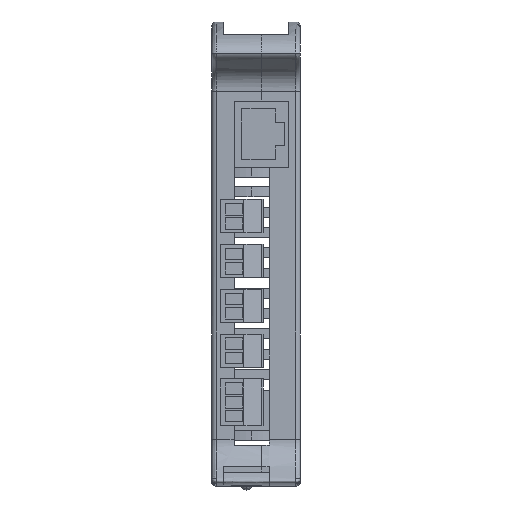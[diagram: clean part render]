
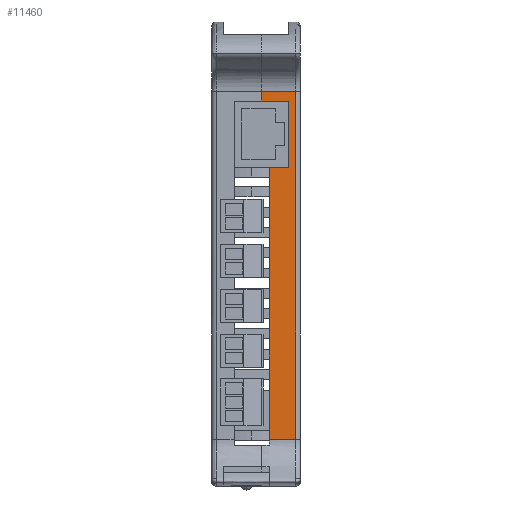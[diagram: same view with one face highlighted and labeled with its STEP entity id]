
A CAD part, left-side view. The second image highlights one B-rep face of the part: STEP entity #11460.
In plain terms, the highlighted planar face has unit normal (-1, 0, 0) as drawn and (0, 0, -1) by its records, which use the part's own axes.
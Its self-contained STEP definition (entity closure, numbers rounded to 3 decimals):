
#1210 = CARTESIAN_POINT ( 'NONE',  ( -22.238, 10., -41.5 ) ) ;
#1329 = LINE ( 'NONE', #14665, #2009 ) ;
#1869 = CARTESIAN_POINT ( 'NONE',  ( -39.238, 10., -41.5 ) ) ;
#2009 = VECTOR ( 'NONE', #13825, 1000. ) ;
#2917 = CARTESIAN_POINT ( 'NONE',  ( -41.722, 10., -41.5 ) ) ;
#3317 = DIRECTION ( 'NONE',  ( 1., 0., 0. ) ) ;
#4705 = CARTESIAN_POINT ( 'NONE',  ( 0., 10., -41.5 ) ) ;
#5436 = VECTOR ( 'NONE', #3317, 1000. ) ;
#6503 = ORIENTED_EDGE ( 'NONE', *, *, #46539, .T. ) ;
#7132 = VERTEX_POINT ( 'NONE', #28206 ) ;
#7325 = FACE_OUTER_BOUND ( 'NONE', #51589, .T. ) ;
#8320 = ORIENTED_EDGE ( 'NONE', *, *, #30687, .F. ) ;
#9622 = EDGE_CURVE ( 'NONE', #19565, #17659, #17277, .T. ) ;
#10700 = CARTESIAN_POINT ( 'NONE',  ( 47.5, 5.625, -41.5 ) ) ;
#11460 = ADVANCED_FACE ( 'NONE', ( #7325 ), #48162, .T. ) ;
#11641 = CARTESIAN_POINT ( 'NONE',  ( -41.722, 1.25, -41.5 ) ) ;
#12175 = VERTEX_POINT ( 'NONE', #20243 ) ;
#13825 = DIRECTION ( 'NONE',  ( 1., 0., 0. ) ) ;
#14665 = CARTESIAN_POINT ( 'NONE',  ( 0., 3., -41.5 ) ) ;
#14755 = ORIENTED_EDGE ( 'NONE', *, *, #35552, .T. ) ;
#15188 = ORIENTED_EDGE ( 'NONE', *, *, #38821, .F. ) ;
#15376 = DIRECTION ( 'NONE',  ( 1., 0., 0. ) ) ;
#17233 = CARTESIAN_POINT ( 'NONE',  ( -39.238, 10., -41.5 ) ) ;
#17277 = LINE ( 'NONE', #4705, #5436 ) ;
#17659 = VERTEX_POINT ( 'NONE', #17233 ) ;
#17802 = EDGE_CURVE ( 'NONE', #29748, #7132, #1329, .T. ) ;
#19565 = VERTEX_POINT ( 'NONE', #2917 ) ;
#20147 = ORIENTED_EDGE ( 'NONE', *, *, #9622, .T. ) ;
#20243 = CARTESIAN_POINT ( 'NONE',  ( 47.5, 8., -41.5 ) ) ;
#22247 = EDGE_CURVE ( 'NONE', #19565, #49508, #25035, .T. ) ;
#24084 = LINE ( 'NONE', #1210, #24192 ) ;
#24192 = VECTOR ( 'NONE', #35811, 1000. ) ;
#24420 = CARTESIAN_POINT ( 'NONE',  ( 0., 8., -41.5 ) ) ;
#25035 = LINE ( 'NONE', #30244, #52334 ) ;
#25793 = ORIENTED_EDGE ( 'NONE', *, *, #45572, .T. ) ;
#25995 = LINE ( 'NONE', #1869, #37540 ) ;
#28169 = DIRECTION ( 'NONE',  ( 0., -1., 0. ) ) ;
#28206 = CARTESIAN_POINT ( 'NONE',  ( -22.238, 3., -41.5 ) ) ;
#29631 = VECTOR ( 'NONE', #40343, 1000. ) ;
#29748 = VERTEX_POINT ( 'NONE', #40770 ) ;
#30244 = CARTESIAN_POINT ( 'NONE',  ( -41.722, 5.625, -41.5 ) ) ;
#30687 = EDGE_CURVE ( 'NONE', #49508, #47291, #32453, .T. ) ;
#32101 = CARTESIAN_POINT ( 'NONE',  ( -22.238, 8., -41.5 ) ) ;
#32453 = LINE ( 'NONE', #40491, #33417 ) ;
#33417 = VECTOR ( 'NONE', #15376, 1000. ) ;
#35552 = EDGE_CURVE ( 'NONE', #53769, #12175, #49726, .T. ) ;
#35811 = DIRECTION ( 'NONE',  ( 0., 1., 0. ) ) ;
#37540 = VECTOR ( 'NONE', #28169, 1000. ) ;
#38821 = EDGE_CURVE ( 'NONE', #47291, #12175, #44616, .T. ) ;
#40343 = DIRECTION ( 'NONE',  ( 0., 1., 0. ) ) ;
#40491 = CARTESIAN_POINT ( 'NONE',  ( 0., 1.25, -41.5 ) ) ;
#40770 = CARTESIAN_POINT ( 'NONE',  ( -39.238, 3., -41.5 ) ) ;
#40945 = ORIENTED_EDGE ( 'NONE', *, *, #22247, .F. ) ;
#42007 = AXIS2_PLACEMENT_3D ( 'NONE', #47497, #47460, #47327 ) ;
#44616 = LINE ( 'NONE', #10700, #29631 ) ;
#45572 = EDGE_CURVE ( 'NONE', #7132, #53769, #24084, .T. ) ;
#46539 = EDGE_CURVE ( 'NONE', #17659, #29748, #25995, .T. ) ;
#47291 = VERTEX_POINT ( 'NONE', #52606 ) ;
#47327 = DIRECTION ( 'NONE',  ( -1., 0., 0. ) ) ;
#47460 = DIRECTION ( 'NONE',  ( 0., 0., -1. ) ) ;
#47497 = CARTESIAN_POINT ( 'NONE',  ( 0., 10., -41.5 ) ) ;
#48162 = PLANE ( 'NONE',  #42007 ) ;
#48501 = DIRECTION ( 'NONE',  ( 1., 0., 0. ) ) ;
#49508 = VERTEX_POINT ( 'NONE', #11641 ) ;
#49726 = LINE ( 'NONE', #24420, #50967 ) ;
#50967 = VECTOR ( 'NONE', #48501, 1000. ) ;
#51589 = EDGE_LOOP ( 'NONE', ( #25793, #14755, #15188, #8320, #40945, #20147, #6503, #52174 ) ) ;
#52174 = ORIENTED_EDGE ( 'NONE', *, *, #17802, .T. ) ;
#52334 = VECTOR ( 'NONE', #53685, 1000. ) ;
#52606 = CARTESIAN_POINT ( 'NONE',  ( 47.5, 1.25, -41.5 ) ) ;
#53685 = DIRECTION ( 'NONE',  ( 0., -1., 0. ) ) ;
#53769 = VERTEX_POINT ( 'NONE', #32101 ) ;
